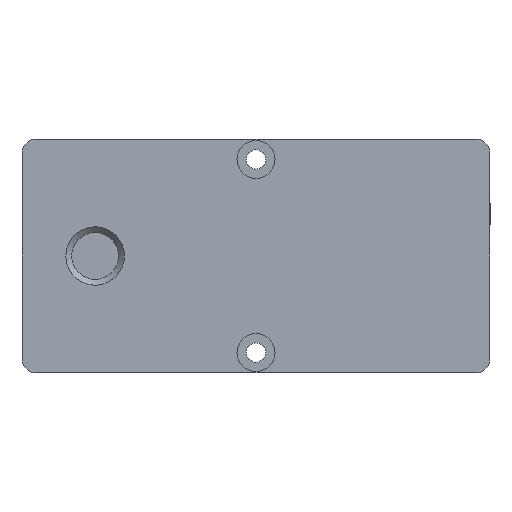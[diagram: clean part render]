
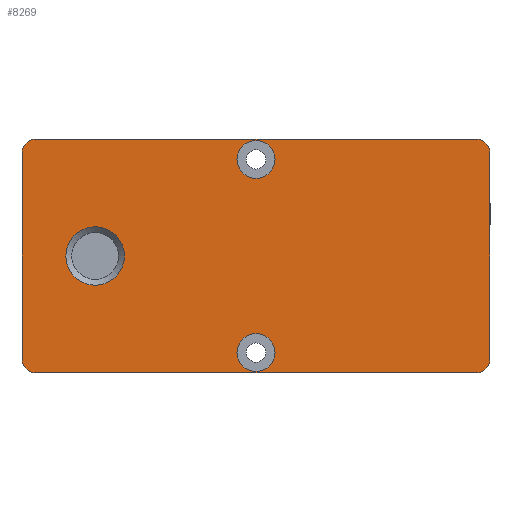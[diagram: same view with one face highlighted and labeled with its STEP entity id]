
A CAD part, front view. The second image highlights one B-rep face of the part: STEP entity #8269.
In plain terms, the highlighted planar face has unit normal (0, -1, 0).
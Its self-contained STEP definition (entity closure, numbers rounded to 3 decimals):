
#824 = VECTOR ( 'NONE', #14225, 1000. ) ;
#933 = EDGE_CURVE ( 'NONE', #5529, #15027, #1098, .T. ) ;
#1023 = AXIS2_PLACEMENT_3D ( 'NONE', #14510, #3708, #8504 ) ;
#1098 = CIRCLE ( 'NONE', #7879, 2.5 ) ;
#1160 = EDGE_CURVE ( 'NONE', #8995, #11869, #10668, .T. ) ;
#1307 = CARTESIAN_POINT ( 'NONE',  ( 37.5, 0., -20. ) ) ;
#1465 = CARTESIAN_POINT ( 'NONE',  ( -37.5, 0., 20. ) ) ;
#1736 = CIRCLE ( 'NONE', #10547, 5. ) ;
#1846 = EDGE_CURVE ( 'NONE', #4969, #13232, #13445, .T. ) ;
#1926 = CARTESIAN_POINT ( 'NONE',  ( 0., 0., 13.25 ) ) ;
#2268 = ORIENTED_EDGE ( 'NONE', *, *, #14218, .F. ) ;
#2386 = AXIS2_PLACEMENT_3D ( 'NONE', #3406, #8183, #13003 ) ;
#2398 = DIRECTION ( 'NONE',  ( 0., 0., -1. ) ) ;
#2423 = DIRECTION ( 'NONE',  ( 0., -1., 0. ) ) ;
#2513 = EDGE_CURVE ( 'NONE', #8995, #15027, #4600, .T. ) ;
#2540 = ORIENTED_EDGE ( 'NONE', *, *, #15141, .T. ) ;
#2871 = VECTOR ( 'NONE', #13830, 1000. ) ;
#2962 = VERTEX_POINT ( 'NONE', #7745 ) ;
#3008 = EDGE_LOOP ( 'NONE', ( #15421 ) ) ;
#3138 = DIRECTION ( 'NONE',  ( 1., 0., 0. ) ) ;
#3160 = DIRECTION ( 'NONE',  ( 0., -1., 0. ) ) ;
#3406 = CARTESIAN_POINT ( 'NONE',  ( -40., 0., -20. ) ) ;
#3708 = DIRECTION ( 'NONE',  ( 0., -1., 0. ) ) ;
#3872 = AXIS2_PLACEMENT_3D ( 'NONE', #8366, #13186, #2398 ) ;
#4053 = DIRECTION ( 'NONE',  ( 0., 0., 1. ) ) ;
#4131 = DIRECTION ( 'NONE',  ( 0., 0., -1. ) ) ;
#4202 = LINE ( 'NONE', #9001, #2871 ) ;
#4381 = DIRECTION ( 'NONE',  ( 0., 1., 0. ) ) ;
#4511 = DIRECTION ( 'NONE',  ( 0., 0., -1. ) ) ;
#4572 = FACE_BOUND ( 'NONE', #5750, .T. ) ;
#4600 = LINE ( 'NONE', #9397, #824 ) ;
#4638 = AXIS2_PLACEMENT_3D ( 'NONE', #13961, #3160, #7946 ) ;
#4643 = CARTESIAN_POINT ( 'NONE',  ( -40., 0., -17.5 ) ) ;
#4969 = VERTEX_POINT ( 'NONE', #1465 ) ;
#5224 = AXIS2_PLACEMENT_3D ( 'NONE', #13214, #2423, #7210 ) ;
#5313 = VECTOR ( 'NONE', #4053, 1000. ) ;
#5384 = ORIENTED_EDGE ( 'NONE', *, *, #1160, .T. ) ;
#5529 = VERTEX_POINT ( 'NONE', #4643 ) ;
#5750 = EDGE_LOOP ( 'NONE', ( #6491 ) ) ;
#5971 = EDGE_CURVE ( 'NONE', #5529, #13232, #10035, .T. ) ;
#6204 = AXIS2_PLACEMENT_3D ( 'NONE', #10499, #15314, #4511 ) ;
#6450 = ORIENTED_EDGE ( 'NONE', *, *, #1846, .T. ) ;
#6491 = ORIENTED_EDGE ( 'NONE', *, *, #14240, .T. ) ;
#6732 = ORIENTED_EDGE ( 'NONE', *, *, #5971, .F. ) ;
#7210 = DIRECTION ( 'NONE',  ( 0., 0., -1. ) ) ;
#7507 = EDGE_CURVE ( 'NONE', #2962, #2962, #9019, .T. ) ;
#7745 = CARTESIAN_POINT ( 'NONE',  ( 0., 0., -19.75 ) ) ;
#7790 = CIRCLE ( 'NONE', #1023, 2.5 ) ;
#7858 = ORIENTED_EDGE ( 'NONE', *, *, #9199, .F. ) ;
#7879 = AXIS2_PLACEMENT_3D ( 'NONE', #10111, #14930, #4131 ) ;
#7946 = DIRECTION ( 'NONE',  ( 0., 0., -1. ) ) ;
#8010 = CARTESIAN_POINT ( 'NONE',  ( 37.5, 0., 20. ) ) ;
#8183 = DIRECTION ( 'NONE',  ( 0., -1., 0. ) ) ;
#8269 = ADVANCED_FACE ( 'NONE', ( #10558, #15367, #4572, #9372 ), #14193, .T. ) ;
#8366 = CARTESIAN_POINT ( 'NONE',  ( 37.5, 0., -17.5 ) ) ;
#8475 = VERTEX_POINT ( 'NONE', #8010 ) ;
#8504 = DIRECTION ( 'NONE',  ( 0., 0., -1. ) ) ;
#8672 = CARTESIAN_POINT ( 'NONE',  ( -40., 0., 17.5 ) ) ;
#8995 = VERTEX_POINT ( 'NONE', #1307 ) ;
#9001 = CARTESIAN_POINT ( 'NONE',  ( 40., 0., 20. ) ) ;
#9019 = CIRCLE ( 'NONE', #5224, 3.25 ) ;
#9100 = LINE ( 'NONE', #13939, #13317 ) ;
#9177 = DIRECTION ( 'NONE',  ( 0., 0., -1. ) ) ;
#9199 = EDGE_CURVE ( 'NONE', #12209, #11869, #4202, .T. ) ;
#9245 = VERTEX_POINT ( 'NONE', #14080 ) ;
#9372 = FACE_OUTER_BOUND ( 'NONE', #13686, .T. ) ;
#9397 = CARTESIAN_POINT ( 'NONE',  ( -40., 0., -20. ) ) ;
#10035 = LINE ( 'NONE', #14860, #5313 ) ;
#10111 = CARTESIAN_POINT ( 'NONE',  ( -37.5, 0., -17.5 ) ) ;
#10499 = CARTESIAN_POINT ( 'NONE',  ( 0., 0., 16.5 ) ) ;
#10547 = AXIS2_PLACEMENT_3D ( 'NONE', #15185, #4381, #9177 ) ;
#10558 = FACE_BOUND ( 'NONE', #14696, .T. ) ;
#10668 = CIRCLE ( 'NONE', #3872, 2.5 ) ;
#11123 = CARTESIAN_POINT ( 'NONE',  ( 40., 0., -17.5 ) ) ;
#11643 = EDGE_CURVE ( 'NONE', #12718, #12718, #13002, .T. ) ;
#11869 = VERTEX_POINT ( 'NONE', #11123 ) ;
#12196 = CARTESIAN_POINT ( 'NONE',  ( 40., 0., 17.5 ) ) ;
#12209 = VERTEX_POINT ( 'NONE', #12196 ) ;
#12718 = VERTEX_POINT ( 'NONE', #1926 ) ;
#13002 = CIRCLE ( 'NONE', #6204, 3.25 ) ;
#13003 = DIRECTION ( 'NONE',  ( 0., 0., -1. ) ) ;
#13186 = DIRECTION ( 'NONE',  ( 0., -1., 0. ) ) ;
#13214 = CARTESIAN_POINT ( 'NONE',  ( 0., 0., -16.5 ) ) ;
#13232 = VERTEX_POINT ( 'NONE', #8672 ) ;
#13317 = VECTOR ( 'NONE', #3138, 1000. ) ;
#13445 = CIRCLE ( 'NONE', #4638, 2.5 ) ;
#13686 = EDGE_LOOP ( 'NONE', ( #2268, #6450, #6732, #13739, #14949, #5384, #7858, #2540 ) ) ;
#13739 = ORIENTED_EDGE ( 'NONE', *, *, #933, .T. ) ;
#13830 = DIRECTION ( 'NONE',  ( 0., 0., -1. ) ) ;
#13939 = CARTESIAN_POINT ( 'NONE',  ( -40., 0., 20. ) ) ;
#13961 = CARTESIAN_POINT ( 'NONE',  ( -37.5, 0., 17.5 ) ) ;
#14080 = CARTESIAN_POINT ( 'NONE',  ( -27.5, 0., -5. ) ) ;
#14128 = CARTESIAN_POINT ( 'NONE',  ( -37.5, 0., -20. ) ) ;
#14193 = PLANE ( 'NONE',  #2386 ) ;
#14218 = EDGE_CURVE ( 'NONE', #4969, #8475, #9100, .T. ) ;
#14225 = DIRECTION ( 'NONE',  ( -1., 0., 0. ) ) ;
#14240 = EDGE_CURVE ( 'NONE', #9245, #9245, #1736, .T. ) ;
#14510 = CARTESIAN_POINT ( 'NONE',  ( 37.5, 0., 17.5 ) ) ;
#14696 = EDGE_LOOP ( 'NONE', ( #15274 ) ) ;
#14860 = CARTESIAN_POINT ( 'NONE',  ( -40., 0., 20. ) ) ;
#14930 = DIRECTION ( 'NONE',  ( 0., -1., 0. ) ) ;
#14949 = ORIENTED_EDGE ( 'NONE', *, *, #2513, .F. ) ;
#15027 = VERTEX_POINT ( 'NONE', #14128 ) ;
#15141 = EDGE_CURVE ( 'NONE', #12209, #8475, #7790, .T. ) ;
#15185 = CARTESIAN_POINT ( 'NONE',  ( -27.5, 0., 0. ) ) ;
#15274 = ORIENTED_EDGE ( 'NONE', *, *, #11643, .F. ) ;
#15314 = DIRECTION ( 'NONE',  ( 0., -1., 0. ) ) ;
#15367 = FACE_BOUND ( 'NONE', #3008, .T. ) ;
#15421 = ORIENTED_EDGE ( 'NONE', *, *, #7507, .F. ) ;
